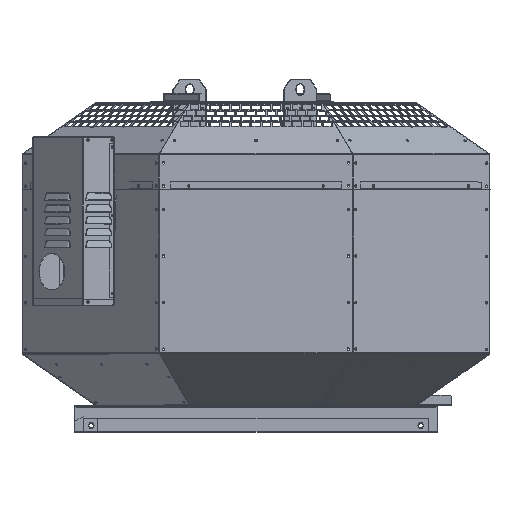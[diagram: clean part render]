
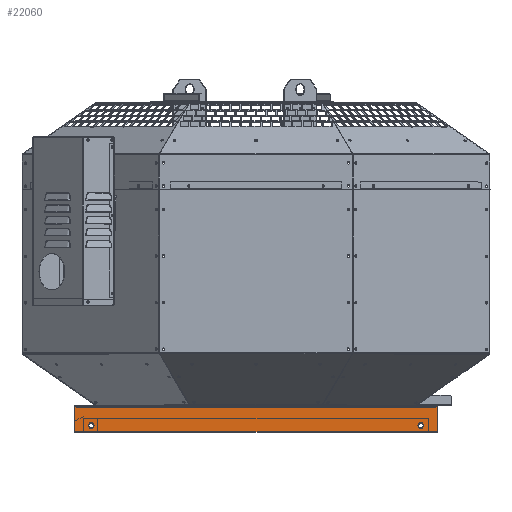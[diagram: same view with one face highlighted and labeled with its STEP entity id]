
A CAD part, top view. The second image highlights one B-rep face of the part: STEP entity #22060.
In plain terms, the highlighted planar face has unit normal (0, 0, 1).
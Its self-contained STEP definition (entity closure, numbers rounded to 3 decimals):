
#22 = VERTEX_POINT ( 'NONE', #56099 ) ;
#78 = CARTESIAN_POINT ( 'NONE',  ( -294.55, 17.6, 301.1 ) ) ;
#2395 = CARTESIAN_POINT ( 'NONE',  ( 283., -8.7, 301.1 ) ) ;
#4470 = CARTESIAN_POINT ( 'NONE',  ( 309.45, -24., 301.1 ) ) ;
#5481 = CARTESIAN_POINT ( 'NONE',  ( -283., -8.7, 301.1 ) ) ;
#14245 = EDGE_CURVE ( 'NONE', #28981, #47842, #80596, .T. ) ;
#15365 = EDGE_CURVE ( 'NONE', #77203, #47842, #144804, .T. ) ;
#16854 = AXIS2_PLACEMENT_3D ( 'NONE', #91143, #24208, #102322 ) ;
#17405 = CARTESIAN_POINT ( 'NONE',  ( -283., -17.7, 301.1 ) ) ;
#17758 = CIRCLE ( 'NONE', #23127, 4.5 ) ;
#18337 = CARTESIAN_POINT ( 'NONE',  ( -294.55, -24., 301.1 ) ) ;
#20076 = ORIENTED_EDGE ( 'NONE', *, *, #15365, .T. ) ;
#21149 = VECTOR ( 'NONE', #129662, 1000. ) ;
#22060 = ADVANCED_FACE ( 'NONE', ( #92086, #100568, #36151 ), #92966, .T. ) ;
#23127 = AXIS2_PLACEMENT_3D ( 'NONE', #105708, #38859, #116924 ) ;
#24208 = DIRECTION ( 'NONE',  ( 0., 0., 1. ) ) ;
#25503 = DIRECTION ( 'NONE',  ( 0., 0., 1. ) ) ;
#26017 = DIRECTION ( 'NONE',  ( 0., 0., 1. ) ) ;
#27169 = ORIENTED_EDGE ( 'NONE', *, *, #79771, .F. ) ;
#28981 = VERTEX_POINT ( 'NONE', #4470 ) ;
#29728 = EDGE_CURVE ( 'NONE', #30486, #140536, #75378, .T. ) ;
#30486 = VERTEX_POINT ( 'NONE', #126563 ) ;
#30811 = AXIS2_PLACEMENT_3D ( 'NONE', #64002, #142033, #75250 ) ;
#33522 = ORIENTED_EDGE ( 'NONE', *, *, #106811, .F. ) ;
#33755 = CARTESIAN_POINT ( 'NONE',  ( 312.45, -21., 301.1 ) ) ;
#34995 = LINE ( 'NONE', #137087, #94425 ) ;
#35981 = LINE ( 'NONE', #142692, #91898 ) ;
#36151 = FACE_OUTER_BOUND ( 'NONE', #40721, .T. ) ;
#36748 = ORIENTED_EDGE ( 'NONE', *, *, #117708, .T. ) ;
#36808 = CARTESIAN_POINT ( 'NONE',  ( -294.55, 19.5, 301.1 ) ) ;
#38079 = VERTEX_POINT ( 'NONE', #17405 ) ;
#38859 = DIRECTION ( 'NONE',  ( 0., 0., 1. ) ) ;
#40515 = AXIS2_PLACEMENT_3D ( 'NONE', #53315, #131349, #64555 ) ;
#40721 = EDGE_LOOP ( 'NONE', ( #125335, #20076, #84345, #92697, #129637, #27169, #101679, #36748 ) ) ;
#44605 = CIRCLE ( 'NONE', #40515, 4.5 ) ;
#44972 = AXIS2_PLACEMENT_3D ( 'NONE', #36808, #26017, #104147 ) ;
#45891 = CARTESIAN_POINT ( 'NONE',  ( -309.45, -24., 301.1 ) ) ;
#47795 = CIRCLE ( 'NONE', #133030, 4.5 ) ;
#47809 = DIRECTION ( 'NONE',  ( 1., 0., 0. ) ) ;
#47842 = VERTEX_POINT ( 'NONE', #45891 ) ;
#50077 = CARTESIAN_POINT ( 'NONE',  ( 283., -17.7, 301.1 ) ) ;
#51222 = AXIS2_PLACEMENT_3D ( 'NONE', #92433, #25503, #103617 ) ;
#52898 = EDGE_CURVE ( 'NONE', #22, #126929, #144889, .T. ) ;
#53315 = CARTESIAN_POINT ( 'NONE',  ( 283., -13.2, 301.1 ) ) ;
#56099 = CARTESIAN_POINT ( 'NONE',  ( 309.05, 17.6, 301.1 ) ) ;
#59531 = CARTESIAN_POINT ( 'NONE',  ( -283., -13.2, 301.1 ) ) ;
#61289 = VECTOR ( 'NONE', #130367, 1000. ) ;
#64002 = CARTESIAN_POINT ( 'NONE',  ( 309.45, -21., 301.1 ) ) ;
#64555 = DIRECTION ( 'NONE',  ( 0., -1., 0. ) ) ;
#69642 = EDGE_CURVE ( 'NONE', #38079, #74080, #47795, .T. ) ;
#70778 = DIRECTION ( 'NONE',  ( 0., -1., 0. ) ) ;
#74080 = VERTEX_POINT ( 'NONE', #5481 ) ;
#75250 = DIRECTION ( 'NONE',  ( 0., -1., 0. ) ) ;
#75378 = LINE ( 'NONE', #78495, #134658 ) ;
#76892 = CARTESIAN_POINT ( 'NONE',  ( -312.45, -21., 301.1 ) ) ;
#77203 = VERTEX_POINT ( 'NONE', #76892 ) ;
#77964 = ORIENTED_EDGE ( 'NONE', *, *, #69642, .F. ) ;
#78360 = CIRCLE ( 'NONE', #30811, 3. ) ;
#78495 = CARTESIAN_POINT ( 'NONE',  ( 312.45, 17.6, 301.1 ) ) ;
#79771 = EDGE_CURVE ( 'NONE', #22, #30486, #34995, .T. ) ;
#80596 = LINE ( 'NONE', #18337, #21149 ) ;
#82322 = ORIENTED_EDGE ( 'NONE', *, *, #116861, .F. ) ;
#84345 = ORIENTED_EDGE ( 'NONE', *, *, #14245, .F. ) ;
#85578 = CARTESIAN_POINT ( 'NONE',  ( -294.55, 17.6, 301.1 ) ) ;
#89495 = DIRECTION ( 'NONE',  ( -1., 0., 0. ) ) ;
#89998 = CIRCLE ( 'NONE', #16854, 4.5 ) ;
#90961 = LINE ( 'NONE', #85578, #61289 ) ;
#91143 = CARTESIAN_POINT ( 'NONE',  ( -283., -13.2, 301.1 ) ) ;
#91898 = VECTOR ( 'NONE', #98327, 1000. ) ;
#92086 = FACE_BOUND ( 'NONE', #139566, .T. ) ;
#92433 = CARTESIAN_POINT ( 'NONE',  ( -309.45, -21., 301.1 ) ) ;
#92697 = ORIENTED_EDGE ( 'NONE', *, *, #104210, .T. ) ;
#92966 = PLANE ( 'NONE',  #44972 ) ;
#94425 = VECTOR ( 'NONE', #47809, 1000. ) ;
#98327 = DIRECTION ( 'NONE',  ( 0., -1., 0. ) ) ;
#100568 = FACE_BOUND ( 'NONE', #142601, .T. ) ;
#101679 = ORIENTED_EDGE ( 'NONE', *, *, #52898, .T. ) ;
#102322 = DIRECTION ( 'NONE',  ( 0., -1., 0. ) ) ;
#103617 = DIRECTION ( 'NONE',  ( 0., -1., 0. ) ) ;
#104147 = DIRECTION ( 'NONE',  ( 0., -1., 0. ) ) ;
#104210 = EDGE_CURVE ( 'NONE', #28981, #140536, #78360, .T. ) ;
#105708 = CARTESIAN_POINT ( 'NONE',  ( 283., -13.2, 301.1 ) ) ;
#106811 = EDGE_CURVE ( 'NONE', #74080, #38079, #89998, .T. ) ;
#114023 = ORIENTED_EDGE ( 'NONE', *, *, #143120, .F. ) ;
#114075 = CARTESIAN_POINT ( 'NONE',  ( -312.45, 17.6, 301.1 ) ) ;
#115210 = VECTOR ( 'NONE', #89495, 1000. ) ;
#116133 = VERTEX_POINT ( 'NONE', #2395 ) ;
#116861 = EDGE_CURVE ( 'NONE', #120853, #116133, #17758, .T. ) ;
#116924 = DIRECTION ( 'NONE',  ( 0., -1., 0. ) ) ;
#117708 = EDGE_CURVE ( 'NONE', #126929, #133864, #90961, .T. ) ;
#120853 = VERTEX_POINT ( 'NONE', #50077 ) ;
#121065 = EDGE_CURVE ( 'NONE', #133864, #77203, #35981, .T. ) ;
#125335 = ORIENTED_EDGE ( 'NONE', *, *, #121065, .T. ) ;
#126563 = CARTESIAN_POINT ( 'NONE',  ( 312.45, 17.6, 301.1 ) ) ;
#126929 = VERTEX_POINT ( 'NONE', #143616 ) ;
#129637 = ORIENTED_EDGE ( 'NONE', *, *, #29728, .F. ) ;
#129662 = DIRECTION ( 'NONE',  ( -1., 0., 0. ) ) ;
#130367 = DIRECTION ( 'NONE',  ( -1., 0., 0. ) ) ;
#131173 = DIRECTION ( 'NONE',  ( 0., -1., 0. ) ) ;
#131349 = DIRECTION ( 'NONE',  ( 0., 0., 1. ) ) ;
#133030 = AXIS2_PLACEMENT_3D ( 'NONE', #59531, #137581, #70778 ) ;
#133864 = VERTEX_POINT ( 'NONE', #114075 ) ;
#134658 = VECTOR ( 'NONE', #131173, 1000. ) ;
#137087 = CARTESIAN_POINT ( 'NONE',  ( 294.55, 17.6, 301.1 ) ) ;
#137581 = DIRECTION ( 'NONE',  ( 0., 0., 1. ) ) ;
#139566 = EDGE_LOOP ( 'NONE', ( #82322, #114023 ) ) ;
#140536 = VERTEX_POINT ( 'NONE', #33755 ) ;
#142033 = DIRECTION ( 'NONE',  ( 0., 0., 1. ) ) ;
#142601 = EDGE_LOOP ( 'NONE', ( #77964, #33522 ) ) ;
#142692 = CARTESIAN_POINT ( 'NONE',  ( -312.45, 17.6, 301.1 ) ) ;
#143120 = EDGE_CURVE ( 'NONE', #116133, #120853, #44605, .T. ) ;
#143616 = CARTESIAN_POINT ( 'NONE',  ( -309.05, 17.6, 301.1 ) ) ;
#144804 = CIRCLE ( 'NONE', #51222, 3. ) ;
#144889 = LINE ( 'NONE', #78, #115210 ) ;
